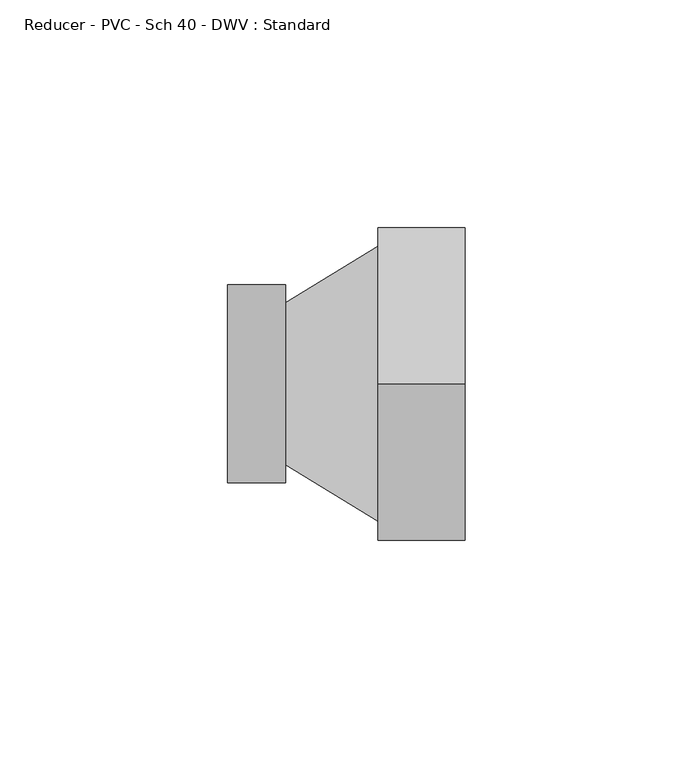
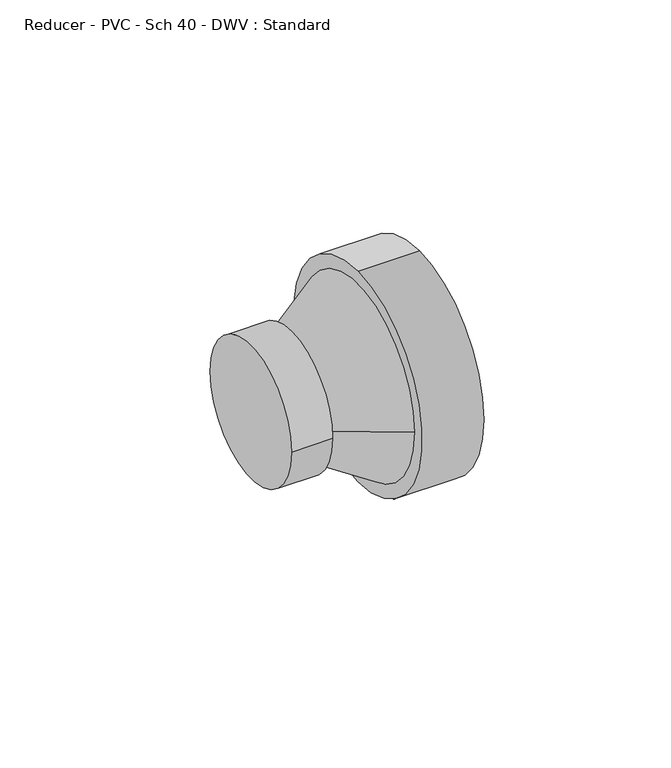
"""IFC4 building model written with IfcOpenShell, lengths in millimetres: pipe fitting geometry, Reducer - PVC - Sch 40 - DWV : Standard."""

from ifc_helpers import new_model, si_unit, frame, origin, place, context, project, spatial, polyline, circle_curve, source, transform, mapped, element, save
from ifc_brep_helpers import plane_surface, cylinder_surface, revolved_surface, advanced_brep


def reducer_pvc_sch_40_dwv_standard_ca3bfa07(model_context):
    return source(origin(), model_context, "Body", "AdvancedBrep", [
        advanced_brep(
        [(0.0, -21.7031094, 0.0), (0.0, 21.7031094, 0.0), (12.7, -21.7031094, 0.0), (12.7, 21.7031094, 0.0), (12.7, 17.7720625, 0.0), (12.7, -17.7720625, 0.0), (33.0080938, 30.1625, 0.0), (33.0080937, -30.1625, 0.0), (33.0080938, 0.0, 34.3154), (33.0080938, 0.0, -34.3154), (52.0580938, 0.0, 34.3154), (52.0580938, 0.0, -34.3154)],
        [
            (0, 1, circle_curve(frame((0.0, 0.0, 0.0), z_axis=(-1.0, 0.0, 0.0), x_axis=(0.0, 1.0, 0.0)), 21.7031094)),
            (1, 0, circle_curve(frame((0.0, 0.0, 0.0), z_axis=(-1.0, 0.0, 0.0), x_axis=(0.0, 1.0, 0.0)), 21.7031094)),
            (2, 3, circle_curve(frame((12.7, 0.0, 0.0), z_axis=(1.0, 0.0, 0.0), x_axis=(0.0, 1.0, 0.0)), 21.7031094)),
            (3, 2, circle_curve(frame((12.7, 0.0, 0.0), z_axis=(1.0, 0.0, 0.0), x_axis=(0.0, 1.0, 0.0)), 21.7031094)),
            (4, 5, circle_curve(frame((12.7, 0.0, 0.0), z_axis=(-1.0, 0.0, 0.0), x_axis=(0.0, -1.0, 0.0)), 17.7720625)),
            (5, 4, circle_curve(frame((12.7, 0.0, 0.0), z_axis=(-1.0, 0.0, 0.0), x_axis=(0.0, 1.0, 0.0)), 17.7720625)),
            (0, 2),
            (3, 1),
            (4, 6),
            (6, 7, circle_curve(frame((33.0080938, 0.0, 0.0), z_axis=(-1.0, 0.0, 0.0), x_axis=(0.0, -1.0, 0.0)), 30.1625)),
            (7, 5),
            (7, 6, circle_curve(frame((33.0080938, 0.0, 0.0), z_axis=(-1.0, 0.0, 0.0), x_axis=(0.0, 1.0, 0.0)), 30.1625)),
            (8, 9, circle_curve(frame((33.0080938, 0.0, 0.0), z_axis=(-1.0, 0.0, 0.0), x_axis=(0.0, 0.0, -1.0)), 34.3154)),
            (9, 8, circle_curve(frame((33.0080938, 0.0, 0.0), z_axis=(-1.0, 0.0, 0.0), x_axis=(0.0, 0.0, -1.0)), 34.3154)),
            (10, 11, circle_curve(frame((52.0580938, 0.0, 0.0), z_axis=(1.0, 0.0, 0.0), x_axis=(0.0, 0.0, -1.0)), 34.3154)),
            (11, 10, circle_curve(frame((52.0580938, 0.0, 0.0), z_axis=(1.0, 0.0, 0.0), x_axis=(0.0, 0.0, -1.0)), 34.3154)),
            (8, 10),
            (11, 9),
        ],
        [
            plane_surface(frame((0.0, 0.0, 0.0), z_axis=(-1.0, 0.0, 0.0), x_axis=(0.0, 0.0, 1.0))),
            plane_surface(frame((12.7, 0.0, 0.0), z_axis=(1.0, 0.0, 0.0), x_axis=(0.0, 0.0, 1.0))),
            cylinder_surface(frame((0.0, 0.0, 0.0), z_axis=(-1.0, 0.0, 0.0), x_axis=(0.0, 1.0, 0.0)), 21.7031094),
            revolved_surface(polyline([(12.7, 17.77206247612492, 0.0), (33.0080938, 30.1625, 0.0)]), (-16.4286495, 0.0, 0.0), (1.0, 0.0, 0.0)),
            plane_surface(frame((33.0080938, 0.0, 0.0), z_axis=(-1.0, 0.0, 0.0), x_axis=(0.0, 1.0, 0.0))),
            plane_surface(frame((52.0580938, 0.0, 0.0), z_axis=(1.0, 0.0, 0.0), x_axis=(0.0, 1.0, 0.0))),
            cylinder_surface(frame((33.0080938, 0.0, 0.0), z_axis=(-1.0, 0.0, 0.0), x_axis=(0.0, 0.0, -1.0)), 34.3154),
        ],
        [
            (0, [[1, 2]]),
            (1, [[3, 4], [5, 6]]),
            (2, [[-1, 7, -4, 8]]),
            (2, [[-2, -8, -3, -7]]),
            (3, [[9, 10, 11, -5]]),
            (3, [[-9, -6, -11, 12]]),
            (4, [[13, 14], [-10, -12]]),
            (5, [[15, 16]]),
            (6, [[-13, 17, -16, 18]]),
            (6, [[-14, -18, -15, -17]]),
        ],
    ),
    ])


if __name__ == "__main__":
    model = new_model("IFC4")
    model_context = context("Model", 3, world=origin())
    ifc_project = project(units=[si_unit("LENGTHUNIT", "METRE", prefix="MILLI")], contexts=[model_context])
    site = spatial("IfcSite", under=ifc_project)
    building = spatial("IfcBuilding", under=site)
    placement = place(None, origin())
    reducer_pvc_sch_40_dwv_standard_shape = reducer_pvc_sch_40_dwv_standard_ca3bfa07(model_context)
    element("IfcPipeFitting", 1, ObjectType="Reducer - PVC - Sch 40 - DWV : Standard", at=placement, inside=building, context=model_context, shape_type="MappedRepresentation", body=[
        mapped(reducer_pvc_sch_40_dwv_standard_shape, transform((0.0, 0.0, 0.0), x_axis=(1.0, 0.0, 0.0), y_axis=(0.0, 1.0, 0.0), z_axis=(0.0, 0.0, 1.0))),
    ])
    save(model, "model.ifc")
